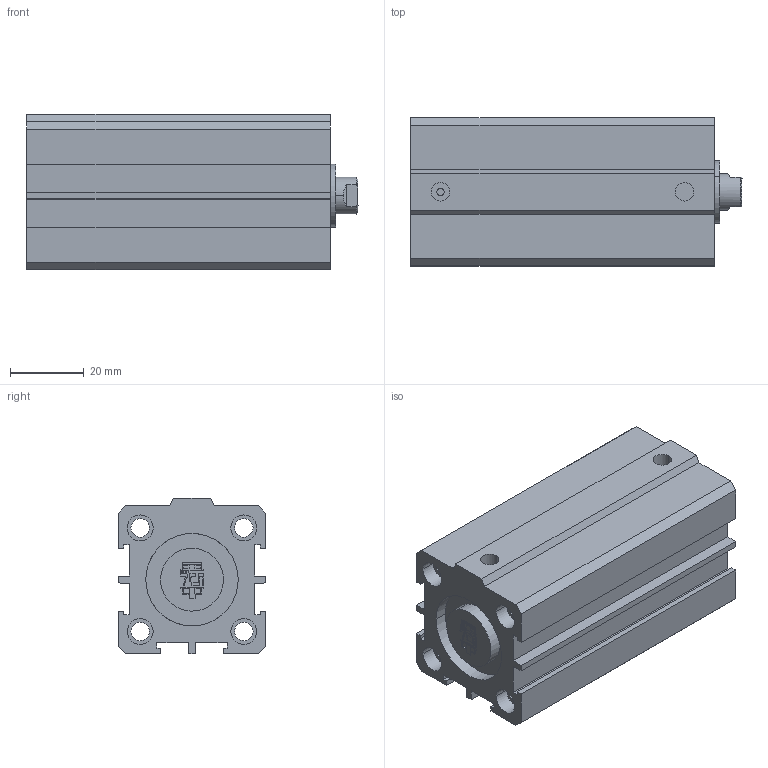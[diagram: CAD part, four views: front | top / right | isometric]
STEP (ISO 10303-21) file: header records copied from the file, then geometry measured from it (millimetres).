
FILE_DESCRIPTION(('CATIA V5 STEP Exchange'),'2;1');
FILE_NAME('D:\PDA\PDA-STP\PDA 25-10\PDA 25-10-50.stp','2016-02-02T10:37:37+00:00',('none'),('none'),'Version 5-6 Release 2012','CATIA V5 STEP AP203','none');
FILE_SCHEMA(('CONFIG_CONTROL_DESIGN'));
Length unit declared in the file: millimetre
Products named in the file (1): PDA 25-10-50-00
Assembly tree (2 placements, depth 2):
  PDA 25-10-50-00
    #58
    #6229
Bounding box: 89.75 x 40 x 42 mm (x, y, z)
Volume: 92163.5 mm3; surface area: 37815.4 mm2
Topology: 3 solids, 4 shells, 238 faces, 606 edges, 406 vertices
Faces by surface type: plane 166, cylinder 68, cone 4
Entity records: 6735 total; most frequent: ORIENTED_EDGE 1212, CARTESIAN_POINT 1202, DIRECTION 914, EDGE_CURVE 606, VECTOR 446, LINE 446, VERTEX_POINT 406, AXIS2_PLACEMENT_3D 310
